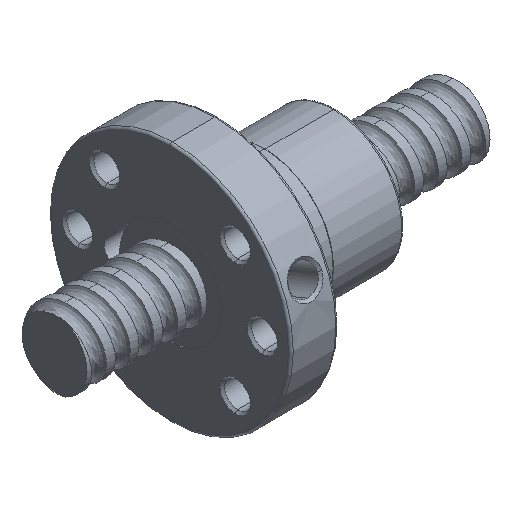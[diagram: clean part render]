
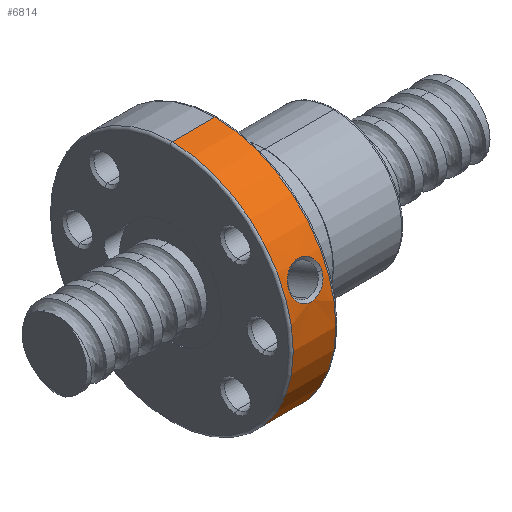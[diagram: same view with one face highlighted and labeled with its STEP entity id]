
A CAD part, isometric view. The second image highlights one B-rep face of the part: STEP entity #6814.
In plain terms, the highlighted cylindrical face has radius 25.5 mm (diameter 51 mm), a partial arc.
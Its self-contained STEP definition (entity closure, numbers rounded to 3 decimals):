
#5984 = VERTEX_POINT ( 'NONE', #7554 ) ;
#5985 = VERTEX_POINT ( 'NONE', #7553 ) ;
#6037 = VERTEX_POINT ( 'NONE', #7920 ) ;
#6038 = VERTEX_POINT ( 'NONE', #7919 ) ;
#6182 = VERTEX_POINT ( 'NONE', #8080 ) ;
#6184 = EDGE_CURVE ( 'NONE', #6185, #6182, #8077, .T. ) ;
#6185 = VERTEX_POINT ( 'NONE', #8076 ) ;
#6236 = EDGE_CURVE ( 'NONE', #6038, #5984, #7951, .T. ) ;
#6401 = EDGE_CURVE ( 'NONE', #6037, #5985, #21167, .T. ) ;
#6522 = EDGE_LOOP ( 'NONE', ( #6523, #6524 ) ) ;
#6523 = ORIENTED_EDGE ( 'NONE', *, *, #6184, .T. ) ;
#6524 = ORIENTED_EDGE ( 'NONE', *, *, #6525, .T. ) ;
#6525 = EDGE_CURVE ( 'NONE', #6182, #6185, #21507, .T. ) ;
#6814 = ADVANCED_FACE ( 'NONE', ( #18246, #18245 ), #18244, .T. ) ;
#6815 = EDGE_LOOP ( 'NONE', ( #6816, #6817, #6819, #6820 ) ) ;
#6816 = ORIENTED_EDGE ( 'NONE', *, *, #6236, .F. ) ;
#6817 = ORIENTED_EDGE ( 'NONE', *, *, #6818, .T. ) ;
#6818 = EDGE_CURVE ( 'NONE', #6038, #6037, #18237, .T. ) ;
#6819 = ORIENTED_EDGE ( 'NONE', *, *, #6401, .T. ) ;
#6820 = ORIENTED_EDGE ( 'NONE', *, *, #6821, .T. ) ;
#6821 = EDGE_CURVE ( 'NONE', #5985, #5984, #18238, .T. ) ;
#7553 = CARTESIAN_POINT ( 'NONE',  ( -34.5, 0., 25.5 ) ) ;
#7554 = CARTESIAN_POINT ( 'NONE',  ( -34.5, 0., -25.5 ) ) ;
#7919 = CARTESIAN_POINT ( 'NONE',  ( -25.5, 0., -25.5 ) ) ;
#7920 = CARTESIAN_POINT ( 'NONE',  ( -25.5, 0., 25.5 ) ) ;
#7948 = DIRECTION ( 'NONE',  ( -1., 0., 0. ) ) ;
#7949 = VECTOR ( 'NONE', #7948, 1000. ) ;
#7950 = CARTESIAN_POINT ( 'NONE',  ( 0., 0., -25.5 ) ) ;
#7951 = LINE ( 'NONE', #7950, #7949 ) ;
#8055 = CARTESIAN_POINT ( 'NONE',  ( -26.5, -23.559, 9.758 ) ) ;
#8056 = CARTESIAN_POINT ( 'NONE',  ( -26.5, -23.379, 10.192 ) ) ;
#8057 = CARTESIAN_POINT ( 'NONE',  ( -26.59, -23.192, 10.609 ) ) ;
#8058 = CARTESIAN_POINT ( 'NONE',  ( -26.95, -22.811, 11.407 ) ) ;
#8059 = CARTESIAN_POINT ( 'NONE',  ( -27.201, -22.634, 11.75 ) ) ;
#8060 = CARTESIAN_POINT ( 'NONE',  ( -27.851, -22.32, 12.337 ) ) ;
#8061 = CARTESIAN_POINT ( 'NONE',  ( -28.229, -22.192, 12.561 ) ) ;
#8062 = CARTESIAN_POINT ( 'NONE',  ( -29.096, -22.008, 12.881 ) ) ;
#8063 = CARTESIAN_POINT ( 'NONE',  ( -29.544, -21.961, 12.961 ) ) ;
#8064 = CARTESIAN_POINT ( 'NONE',  ( -30.46, -21.961, 12.961 ) ) ;
#8065 = CARTESIAN_POINT ( 'NONE',  ( -30.907, -22.008, 12.881 ) ) ;
#8066 = CARTESIAN_POINT ( 'NONE',  ( -31.773, -22.193, 12.561 ) ) ;
#8067 = CARTESIAN_POINT ( 'NONE',  ( -32.151, -22.32, 12.336 ) ) ;
#8068 = CARTESIAN_POINT ( 'NONE',  ( -32.798, -22.634, 11.75 ) ) ;
#8069 = CARTESIAN_POINT ( 'NONE',  ( -33.051, -22.812, 11.405 ) ) ;
#8070 = CARTESIAN_POINT ( 'NONE',  ( -33.409, -23.193, 10.608 ) ) ;
#8071 = CARTESIAN_POINT ( 'NONE',  ( -33.5, -23.38, 10.191 ) ) ;
#8075 = CARTESIAN_POINT ( 'NONE',  ( -33.5, -23.559, 9.758 ) ) ;
#8076 = CARTESIAN_POINT ( 'NONE',  ( -33.5, -23.559, 9.758 ) ) ;
#8077 = B_SPLINE_CURVE_WITH_KNOTS ( 'NONE', 3,
 ( #8075, #8071, #8070, #8069, #8068, #8067, #8066, #8065, #8064, #8063, #8062, #8061, #8060, #8059, #8058, #8057, #8056, #8055 ),
 .UNSPECIFIED., .F., .F.,
 ( 4, 2, 2, 2, 2, 2, 2, 2, 4 ),
 ( 0., 0.063, 0.125, 0.188, 0.25, 0.313, 0.375, 0.438, 0.5 ),
 .UNSPECIFIED. ) ;
#8080 = CARTESIAN_POINT ( 'NONE',  ( -26.5, -23.559, 9.758 ) ) ;
#18234 = DIRECTION ( 'NONE',  ( 0., 0., -1. ) ) ;
#18235 = DIRECTION ( 'NONE',  ( -1., 0., 0. ) ) ;
#18236 = AXIS2_PLACEMENT_3D ( 'NONE', #18243, #18235, #18234 ) ;
#18237 = CIRCLE ( 'NONE', #18236, 25.5 ) ;
#18238 = CIRCLE ( 'NONE', #18314, 25.5 ) ;
#18239 = DIRECTION ( 'NONE',  ( 0., 0., 1. ) ) ;
#18240 = DIRECTION ( 'NONE',  ( -1., 0., 0. ) ) ;
#18241 = CARTESIAN_POINT ( 'NONE',  ( 0., 0., 0. ) ) ;
#18242 = AXIS2_PLACEMENT_3D ( 'NONE', #18241, #18240, #18239 ) ;
#18243 = CARTESIAN_POINT ( 'NONE',  ( -25.5, 0., 0. ) ) ;
#18244 = CYLINDRICAL_SURFACE ( 'NONE', #18242, 25.5 ) ;
#18245 = FACE_BOUND ( 'NONE', #6522, .T. ) ;
#18246 = FACE_OUTER_BOUND ( 'NONE', #6815, .T. ) ;
#18311 = DIRECTION ( 'NONE',  ( 0., 0., 1. ) ) ;
#18312 = DIRECTION ( 'NONE',  ( 1., 0., 0. ) ) ;
#18313 = CARTESIAN_POINT ( 'NONE',  ( -34.5, 0., 0. ) ) ;
#18314 = AXIS2_PLACEMENT_3D ( 'NONE', #18313, #18312, #18311 ) ;
#21164 = DIRECTION ( 'NONE',  ( -1., 0., 0. ) ) ;
#21165 = VECTOR ( 'NONE', #21164, 1000. ) ;
#21166 = CARTESIAN_POINT ( 'NONE',  ( 0., 0., 25.5 ) ) ;
#21167 = LINE ( 'NONE', #21166, #21165 ) ;
#21272 = CARTESIAN_POINT ( 'NONE',  ( -33.5, -23.559, 9.758 ) ) ;
#21273 = CARTESIAN_POINT ( 'NONE',  ( -33.5, -23.738, 9.326 ) ) ;
#21274 = CARTESIAN_POINT ( 'NONE',  ( -33.41, -23.9, 8.9 ) ) ;
#21275 = CARTESIAN_POINT ( 'NONE',  ( -33.05, -24.195, 8.064 ) ) ;
#21276 = CARTESIAN_POINT ( 'NONE',  ( -32.798, -24.313, 7.696 ) ) ;
#21277 = CARTESIAN_POINT ( 'NONE',  ( -32.151, -24.505, 7.06 ) ) ;
#21278 = CARTESIAN_POINT ( 'NONE',  ( -31.772, -24.574, 6.81 ) ) ;
#21279 = CARTESIAN_POINT ( 'NONE',  ( -30.908, -24.67, 6.454 ) ) ;
#21280 = CARTESIAN_POINT ( 'NONE',  ( -30.46, -24.693, 6.364 ) ) ;
#21281 = CARTESIAN_POINT ( 'NONE',  ( -29.544, -24.693, 6.364 ) ) ;
#21282 = CARTESIAN_POINT ( 'NONE',  ( -29.096, -24.67, 6.454 ) ) ;
#21283 = CARTESIAN_POINT ( 'NONE',  ( -28.229, -24.575, 6.81 ) ) ;
#21494 = CARTESIAN_POINT ( 'NONE',  ( -27.851, -24.506, 7.059 ) ) ;
#21495 = CARTESIAN_POINT ( 'NONE',  ( -27.202, -24.313, 7.695 ) ) ;
#21496 = CARTESIAN_POINT ( 'NONE',  ( -26.949, -24.195, 8.065 ) ) ;
#21497 = CARTESIAN_POINT ( 'NONE',  ( -26.68, -23.975, 8.688 ) ) ;
#21498 = CARTESIAN_POINT ( 'NONE',  ( -26.613, -23.897, 8.9 ) ) ;
#21499 = CARTESIAN_POINT ( 'NONE',  ( -26.522, -23.734, 9.326 ) ) ;
#21504 = CARTESIAN_POINT ( 'NONE',  ( -26.5, -23.649, 9.541 ) ) ;
#21505 = CARTESIAN_POINT ( 'NONE',  ( -26.5, -23.559, 9.758 ) ) ;
#21507 = B_SPLINE_CURVE_WITH_KNOTS ( 'NONE', 3,
 ( #21505, #21504, #21499, #21498, #21497, #21496, #21495, #21494, #21283, #21282, #21281, #21280, #21279, #21278, #21277, #21276, #21275, #21274, #21273, #21272 ),
 .UNSPECIFIED., .F., .F.,
 ( 4, 2, 2, 2, 2, 2, 2, 2, 2, 4 ),
 ( 0.5, 0.531, 0.563, 0.625, 0.688, 0.75, 0.813, 0.875, 0.938, 1. ),
 .UNSPECIFIED. ) ;
